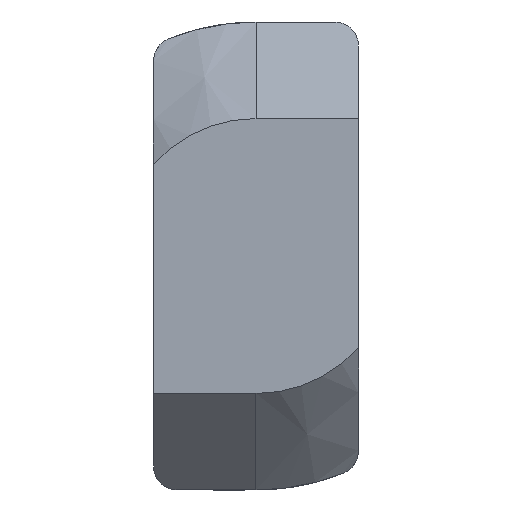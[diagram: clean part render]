
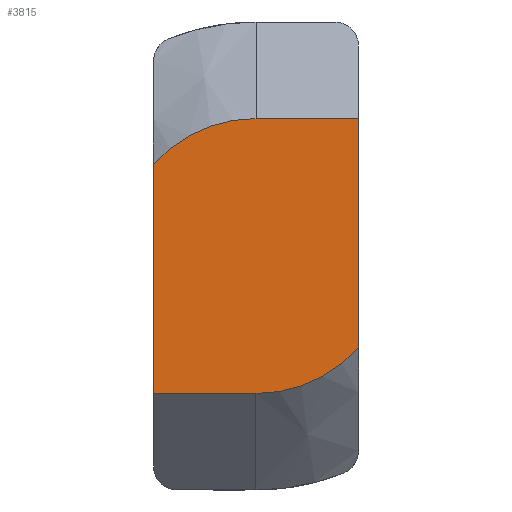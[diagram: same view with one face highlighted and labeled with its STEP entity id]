
A CAD part, front view. The second image highlights one B-rep face of the part: STEP entity #3815.
In plain terms, the highlighted planar face has unit normal (0, -1, 0).
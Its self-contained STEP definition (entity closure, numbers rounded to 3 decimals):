
#465 = CARTESIAN_POINT ( 'NONE',  ( 0., 0., 5.7 ) ) ;
#547 = CIRCLE ( 'NONE', #2510, 5.7 ) ;
#648 = CARTESIAN_POINT ( 'NONE',  ( -4.25, 0., -5.7 ) ) ;
#680 = CARTESIAN_POINT ( 'NONE',  ( 0., 0., 5.7 ) ) ;
#712 = VERTEX_POINT ( 'NONE', #465 ) ;
#807 = EDGE_CURVE ( 'NONE', #3812, #4870, #5590, .T. ) ;
#1047 = VECTOR ( 'NONE', #7093, 1000. ) ;
#1300 = VECTOR ( 'NONE', #6824, 1000. ) ;
#1316 = VECTOR ( 'NONE', #5831, 1000. ) ;
#1356 = CARTESIAN_POINT ( 'NONE',  ( -4.25, 0., 8.07 ) ) ;
#1677 = EDGE_LOOP ( 'NONE', ( #4204, #6494, #4143, #7778, #4424, #2901 ) ) ;
#2220 = VECTOR ( 'NONE', #7454, 1000. ) ;
#2401 = CARTESIAN_POINT ( 'NONE',  ( 4.25, 0., -3.798 ) ) ;
#2422 = EDGE_CURVE ( 'NONE', #3237, #4314, #5363, .T. ) ;
#2510 = AXIS2_PLACEMENT_3D ( 'NONE', #7698, #2645, #3307 ) ;
#2511 = CARTESIAN_POINT ( 'NONE',  ( 4.25, 0., -8.07 ) ) ;
#2645 = DIRECTION ( 'NONE',  ( 0., 1., 0. ) ) ;
#2658 = EDGE_CURVE ( 'NONE', #712, #3812, #3919, .T. ) ;
#2667 = LINE ( 'NONE', #1356, #1316 ) ;
#2750 = VERTEX_POINT ( 'NONE', #7659 ) ;
#2901 = ORIENTED_EDGE ( 'NONE', *, *, #807, .F. ) ;
#3237 = VERTEX_POINT ( 'NONE', #5959 ) ;
#3307 = DIRECTION ( 'NONE',  ( 0., 0., 1. ) ) ;
#3407 = CARTESIAN_POINT ( 'NONE',  ( 0., 0., 0. ) ) ;
#3756 = EDGE_CURVE ( 'NONE', #4314, #2750, #2667, .T. ) ;
#3812 = VERTEX_POINT ( 'NONE', #6530 ) ;
#3815 = ADVANCED_FACE ( 'NONE', ( #6449 ), #6405, .F. ) ;
#3919 = LINE ( 'NONE', #680, #1047 ) ;
#4143 = ORIENTED_EDGE ( 'NONE', *, *, #3756, .F. ) ;
#4204 = ORIENTED_EDGE ( 'NONE', *, *, #2658, .F. ) ;
#4314 = VERTEX_POINT ( 'NONE', #648 ) ;
#4424 = ORIENTED_EDGE ( 'NONE', *, *, #7693, .F. ) ;
#4552 = DIRECTION ( 'NONE',  ( 0., 1., 0. ) ) ;
#4870 = VERTEX_POINT ( 'NONE', #2401 ) ;
#5363 = LINE ( 'NONE', #7640, #2220 ) ;
#5590 = LINE ( 'NONE', #2511, #1300 ) ;
#5831 = DIRECTION ( 'NONE',  ( 0., 0., 1. ) ) ;
#5905 = AXIS2_PLACEMENT_3D ( 'NONE', #3407, #4552, #5911 ) ;
#5911 = DIRECTION ( 'NONE',  ( 0., 0., 1. ) ) ;
#5923 = CIRCLE ( 'NONE', #6165, 5.7 ) ;
#5959 = CARTESIAN_POINT ( 'NONE',  ( 0., 0., -5.7 ) ) ;
#6165 = AXIS2_PLACEMENT_3D ( 'NONE', #7414, #6759, #6258 ) ;
#6226 = EDGE_CURVE ( 'NONE', #2750, #712, #547, .T. ) ;
#6258 = DIRECTION ( 'NONE',  ( 0., 0., 1. ) ) ;
#6405 = PLANE ( 'NONE',  #5905 ) ;
#6449 = FACE_OUTER_BOUND ( 'NONE', #1677, .T. ) ;
#6494 = ORIENTED_EDGE ( 'NONE', *, *, #6226, .F. ) ;
#6530 = CARTESIAN_POINT ( 'NONE',  ( 4.25, 0., 5.7 ) ) ;
#6759 = DIRECTION ( 'NONE',  ( 0., 1., 0. ) ) ;
#6824 = DIRECTION ( 'NONE',  ( 0., 0., -1. ) ) ;
#7093 = DIRECTION ( 'NONE',  ( 1., 0., 0. ) ) ;
#7414 = CARTESIAN_POINT ( 'NONE',  ( 0., 0., 0. ) ) ;
#7454 = DIRECTION ( 'NONE',  ( -1., 0., 0. ) ) ;
#7640 = CARTESIAN_POINT ( 'NONE',  ( 0., 0., -5.7 ) ) ;
#7659 = CARTESIAN_POINT ( 'NONE',  ( -4.25, 0., 3.798 ) ) ;
#7693 = EDGE_CURVE ( 'NONE', #4870, #3237, #5923, .T. ) ;
#7698 = CARTESIAN_POINT ( 'NONE',  ( 0., 0., 0. ) ) ;
#7778 = ORIENTED_EDGE ( 'NONE', *, *, #2422, .F. ) ;
